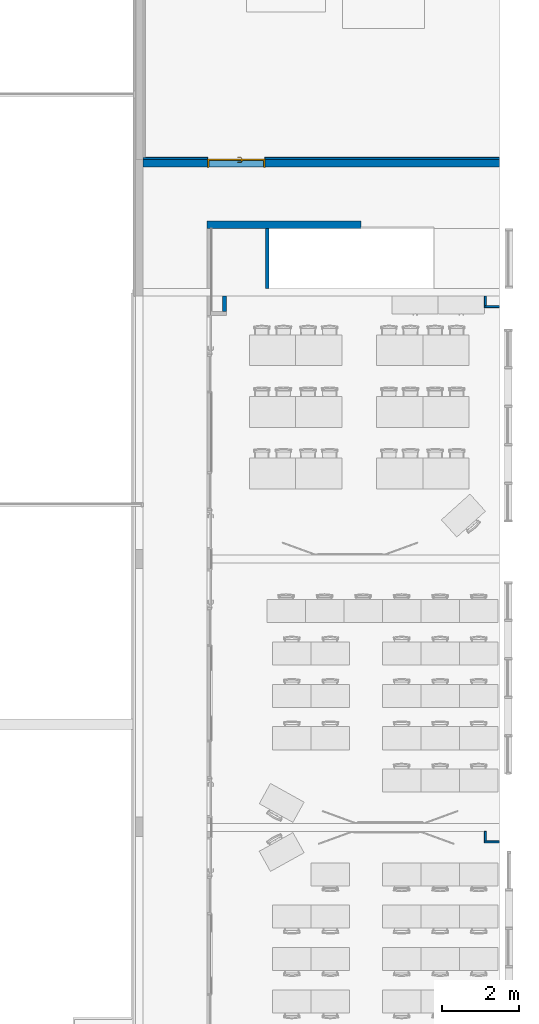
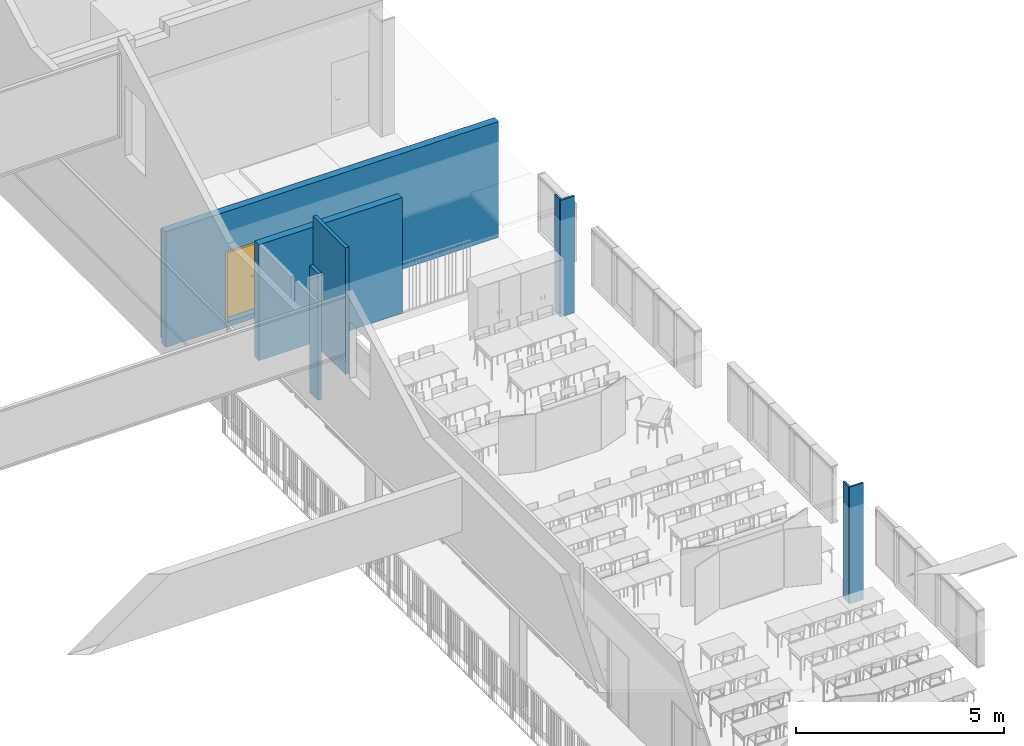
# One storey, part 25 of 44: 9 walls, 1 door, 2 openings.
"""IFC2X3 building model written with IfcOpenShell, lengths in centimetres."""

from ifc_helpers import new_model, entity, si_unit, converted_unit, derived_unit, direction, frame, frame_2d, origin, place, context, subcontext, project, spatial, rectangle, extrude, faceted_brep, source, transform, mapped, material, material_list, layer, layer_set, layer_usage, type_object, type_shapes, element, fill, save


model = new_model("IFC2X3")

# Units and contexts
model_context = context("Model", 3, precision=0.001, world=origin(), true_north=direction((6.12303176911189e-17, 1.0)))
body_context = subcontext(model_context, "Body", "Model", "MODEL_VIEW")
ifc_project = project(units=[si_unit("LENGTHUNIT", "METRE", prefix="CENTI"), si_unit("AREAUNIT", "SQUARE_METRE"), si_unit("VOLUMEUNIT", "CUBIC_METRE"), converted_unit("PLANEANGLEUNIT", "DEGREE", entity("IfcRatioMeasure", 0.0174532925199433), si_unit("PLANEANGLEUNIT", "RADIAN"), dimensions=[0, 0, 0, 0, 0, 0, 0]), si_unit("MASSUNIT", "GRAM", prefix="KILO"), si_unit("TIMEUNIT", "SECOND"), si_unit("FREQUENCYUNIT", "HERTZ"), si_unit("THERMODYNAMICTEMPERATUREUNIT", "DEGREE_CELSIUS"), derived_unit("THERMALTRANSMITTANCEUNIT", [(si_unit("MASSUNIT", "GRAM", prefix="KILO"), 1), (si_unit("THERMODYNAMICTEMPERATUREUNIT", "KELVIN"), -1), (si_unit("TIMEUNIT", "SECOND"), -3)]), derived_unit("VOLUMETRICFLOWRATEUNIT", [(si_unit("LENGTHUNIT", "METRE"), 3), (si_unit("TIMEUNIT", "SECOND"), -1)]), si_unit("ELECTRICCURRENTUNIT", "AMPERE"), si_unit("ELECTRICVOLTAGEUNIT", "VOLT"), si_unit("POWERUNIT", "WATT"), si_unit("FORCEUNIT", "NEWTON", prefix="KILO"), si_unit("ILLUMINANCEUNIT", "LUX"), si_unit("LUMINOUSFLUXUNIT", "LUMEN"), si_unit("LUMINOUSINTENSITYUNIT", "CANDELA"), derived_unit("USERDEFINED", [(si_unit("MASSUNIT", "GRAM", prefix="KILO"), -1), (si_unit("LENGTHUNIT", "METRE"), -2), (si_unit("TIMEUNIT", "SECOND"), 3), (si_unit("LUMINOUSFLUXUNIT", "LUMEN"), 1)]), derived_unit("LINEARVELOCITYUNIT", [(si_unit("LENGTHUNIT", "METRE"), 1), (si_unit("TIMEUNIT", "SECOND"), -1)]), si_unit("PRESSUREUNIT", "PASCAL"), derived_unit("USERDEFINED", [(si_unit("LENGTHUNIT", "METRE"), -2), (si_unit("MASSUNIT", "GRAM", prefix="KILO"), 1), (si_unit("TIMEUNIT", "SECOND"), -2)])], contexts=[model_context])

# Site, building, storey
site_placement = place(None, frame((8.62739174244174, -249.285249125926, 0.0)))
site = spatial("IfcSite", under=ifc_project, at=site_placement, Name="Default", CompositionType="ELEMENT")
building_placement = place(site_placement, origin())
building = spatial("IfcBuilding", under=site, at=building_placement, CompositionType="ELEMENT")
storey_placement = place(building_placement, frame((0.0, 0.0, 343.0)))
storey = spatial("IfcBuildingStorey", under=building, at=storey_placement, Name="R+1", CompositionType="ELEMENT", Elevation=343.0)

# Walls
ifc_material_1 = material(Name="Plâtre")
ifc_layer_1 = layer(ifc_material_1, 10.0)
ifc_layer_set_1 = layer_set([ifc_layer_1], Name="Mur de base:PLA 10")
ifc_layer_usage_1 = layer_usage(ifc_layer_set_1, "AXIS2", "NEGATIVE", 5.0)
wall_type_1 = type_object("IfcWallType", Name="Mur de base:PLA 10", PredefinedType="STANDARD", material=ifc_layer_set_1)
wall_1_placement = place(storey_placement, frame((3264.90480416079, 4642.98020813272, 0.0), z_axis=(0.0, 0.0, 1.0), x_axis=(0.0, 1.0, 0.0)))
element("IfcWallStandardCase", 1, at=wall_1_placement, inside=storey, type_object=wall_type_1, material=ifc_layer_usage_1, Name="Mur de base:PLA 10", ObjectType="Mur de base:PLA 10", context=body_context, shape_type="SweptSolid", body=[
    extrude(rectangle(XDim=39.9999999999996, YDim=10.0000000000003, at=frame_2d((19.9999999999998, 0.0), x_axis=(-1.0, 0.0))), origin(), (0.0, 0.0, 1.0), 372.0),
])
ifc_layer_2 = layer(ifc_material_1, 5.0)
ifc_layer_set_2 = layer_set([ifc_layer_2], Name="Mur de base:PLA 5")
ifc_layer_usage_2 = layer_usage(ifc_layer_set_2, "AXIS2", "NEGATIVE", 2.5)
wall_type_2 = type_object("IfcWallType", Name="Mur de base:PLA 5", PredefinedType="STANDARD", material=ifc_layer_set_2)
wall_2_placement = place(storey_placement, frame((3978.90482781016, 4655.48020813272, 0.0), z_axis=(0.0, 0.0, 1.0), x_axis=(-1.0, 0.0, 0.0)))
element("IfcWallStandardCase", 2, at=wall_2_placement, inside=storey, type_object=wall_type_2, material=ifc_layer_usage_2, Name="Mur de base:PLA 5", ObjectType="Mur de base:PLA 5", context=body_context, shape_type="SweptSolid", body=[
    extrude(rectangle(XDim=39.0000000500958, YDim=5.0000000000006, at=frame_2d((19.5000000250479, 0.0), x_axis=(-1.0, 0.0))), origin(), (0.0, 0.0, 1.0), 343.000000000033),
])
ifc_layer_usage_3 = layer_usage(ifc_layer_set_2, "AXIS2", "NEGATIVE", 2.5)
wall_3_placement = place(storey_placement, frame((3942.40482776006, 4657.98020813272, 0.0), z_axis=(0.0, 0.0, 1.0), x_axis=(0.0, 1.0, 0.0)))
element("IfcWallStandardCase", 3, at=wall_3_placement, inside=storey, type_object=wall_type_2, material=ifc_layer_usage_3, Name="Mur de base:PLA 5", ObjectType="Mur de base:PLA 5", context=body_context, shape_type="SweptSolid", body=[
    extrude(rectangle(XDim=25.0000000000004, YDim=5.0000000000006, at=frame_2d((12.5000000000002, 0.0), x_axis=(-1.0, 0.0))), origin(), (0.0, 0.0, 1.0), 343.000000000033),
])
ifc_layer_usage_4 = layer_usage(ifc_layer_set_2, "AXIS2", "NEGATIVE", 2.5)
wall_4_placement = place(storey_placement, frame((3978.90482781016, 3265.68519336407, 0.0), z_axis=(0.0, 0.0, 1.0), x_axis=(-1.0, 0.0, 0.0)))
element("IfcWallStandardCase", 4, at=wall_4_placement, inside=storey, type_object=wall_type_2, material=ifc_layer_usage_4, Name="Mur de base:PLA 5", ObjectType="Mur de base:PLA 5", context=body_context, shape_type="SweptSolid", body=[
    extrude(rectangle(XDim=39.000000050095, YDim=4.99999999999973, at=frame_2d((19.5000000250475, 0.0), x_axis=(-1.0, 0.0))), origin(), (0.0, 0.0, 1.0), 343.000000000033),
])
ifc_layer_usage_5 = layer_usage(ifc_layer_set_2, "AXIS2", "NEGATIVE", 2.5)
wall_5_placement = place(storey_placement, frame((3942.40482776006, 3268.18519336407, 0.0), z_axis=(0.0, 0.0, 1.0), x_axis=(0.0, 1.0, 0.0)))
element("IfcWallStandardCase", 5, at=wall_5_placement, inside=storey, type_object=wall_type_2, material=ifc_layer_usage_5, Name="Mur de base:PLA 5", ObjectType="Mur de base:PLA 5", context=body_context, shape_type="SweptSolid", body=[
    extrude(rectangle(XDim=24.9999999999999, YDim=5.0000000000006, at=frame_2d((12.5, 0.0), x_axis=(-1.0, 0.0))), origin(), (0.0, 0.0, 1.0), 343.000000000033),
])

# Wall, opening, door
ifc_material_2 = material(Name="Béton, coulé sur place, gris")
ifc_layer_3 = layer(ifc_material_2, 20.0)
ifc_layer_set_3 = layer_set([ifc_layer_3], Name="Mur de base:BET 20")
ifc_layer_usage_6 = layer_usage(ifc_layer_set_3, "AXIS2", "NEGATIVE", 10.0)
wall_type_3 = type_object("IfcWallType", Name="Mur de base:BET 20", PredefinedType="STANDARD", material=ifc_layer_set_3)
wall_6_placement = place(storey_placement, frame((3053.90482779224, 5027.98020814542, 0.0)))
wall_6 = element("IfcWallStandardCase", 6, at=wall_6_placement, inside=storey, type_object=wall_type_3, material=ifc_layer_usage_6, Name="Mur de base:BET 20", ObjectType="Mur de base:BET 20", context=body_context, shape_type="SweptSolid", body=[
    extrude(rectangle(XDim=925.00000001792, YDim=20.0000000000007, at=frame_2d((462.50000000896, 4.17443857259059e-14), x_axis=(-1.0, 0.0))), origin(), (0.0, 0.0, 1.0), 340.0),
])
opening_1_placement = place(wall_6_placement, frame((167.0, -10.0, 15.0)))
opening_1 = element("IfcOpeningElement", 7, at=opening_1_placement, cuts=wall_6, Name="Tierce(R)_bois_mu:143 x 204 cm:1", ObjectType="Opening", context=body_context, shape_type="SweptSolid", body=[
    extrude(rectangle(XDim=206.999999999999, YDim=149.0, at=frame_2d((103.499999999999, 74.4999999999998), x_axis=(1.0, 0.0))), frame((0.0, 0.0, 0.0), z_axis=(0.0, 1.0, 0.0), x_axis=(0.0, 0.0, 1.0)), (0.0, 0.0, 1.0), 20.0),
])
ifc_material_3 = material(Name="Aluminium-Dorma Metal-Anodized Silver")
ifc_material_4 = material(Name="Porte - Cadre")
ifc_material_5 = material(Name="Porte - Panneau")
ifc_material_list_1 = material_list([ifc_material_3, ifc_material_4, ifc_material_5])
ifc_material_list_2 = material_list([ifc_material_3, ifc_material_4, ifc_material_5])
door_style = type_object("IfcDoorStyle", Name="143 x 204 cm", ConstructionType="NOTDEFINED", OperationType="NOTDEFINED", ParameterTakesPrecedence=False, Sizeable=False, material=ifc_material_list_2)
shared_shape = source(origin(), body_context, "Body", "Brep", [
    faceted_brep([(60.2974701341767, 3.69999999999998, 100.778044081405), (59.8999999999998, 3.69999999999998, 100.699999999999), (59.8999999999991, 3.69999999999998, 99.2999999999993), (60.2974701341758, 3.69999999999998, 99.2219559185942), (60.7025298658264, 3.69999999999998, 99.2219559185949), (61.1000000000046, 3.69999999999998, 99.3000000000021), (61.100000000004, 3.69999999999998, 100.699999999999), (60.7025298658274, 3.69999999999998, 100.778044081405), (61.1000000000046, 5.94852045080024, 99.3000000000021), (61.1000000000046, 5.94852045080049, 100.699999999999), (60.7025298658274, 6.1131579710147, 100.778044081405), (62.0838906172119, 7.49451872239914, 100.778044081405), (61.916109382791, 7.89957845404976, 100.778044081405), (60.2974701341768, 6.2809392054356, 100.778044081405), (71.0684749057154, 6.84673156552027, 100.778044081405), (71.3548953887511, 7.13315204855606, 100.778044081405), (70.5884689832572, 7.89957845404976, 100.778044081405), (70.4206877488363, 7.49451872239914, 100.778044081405), (59.8999999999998, 6.44557672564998, 100.699999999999), (59.8999999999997, 6.44557672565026, 99.2999999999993), (60.2974701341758, 6.28093920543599, 99.2219559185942), (61.9161093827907, 7.8995784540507, 99.2219559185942), (62.0838906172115, 7.49451872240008, 99.2219559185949), (60.7025298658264, 6.11315797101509, 99.2219559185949), (71.3548953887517, 7.13315204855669, 99.2219559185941), (71.068474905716, 6.84673156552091, 99.2219559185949), (70.4206877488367, 7.49451872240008, 99.2219559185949), (70.5884689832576, 7.8995784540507, 99.2219559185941), (62.2485281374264, 7.09704858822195, 99.3000000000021), (62.2485281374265, 7.09704858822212, 100.699999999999), (61.7514718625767, 8.29704858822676, 100.699999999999), (61.7514718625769, 8.29704858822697, 99.2999999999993), (66.2522904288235, 7.09704858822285, 99.3000000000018), (70.2560502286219, 7.09704858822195, 99.3000000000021), (70.2560502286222, 7.09704858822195, 100.699999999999), (66.2522891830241, 7.09704858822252, 100.699999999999), (66.2522891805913, 7.71249275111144, 100.787811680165), (70.7531065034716, 8.29704858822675, 100.699999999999), (66.7600577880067, 8.29704858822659, 100.699999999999), (70.7531065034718, 8.29704858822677, 99.2999999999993), (65.7445206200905, 8.29704858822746, 99.2999999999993), (66.2522892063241, 7.71249274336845, 99.2121883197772), (70.7874210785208, 6.56567773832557, 99.3000000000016), (71.6359492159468, 7.41420587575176, 99.2999999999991), (71.6359492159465, 7.4142058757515, 100.699999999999), (70.7874210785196, 6.5656777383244, 100.699999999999)], [[[0, 1, 2, 3, 4, 5, 6, 7]], [[6, 5, 8, 9]], [[9, 10, 7, 6]], [[10, 11, 12, 13, 0, 7]], [[14, 15, 16, 17]], [[13, 18, 1, 0]], [[2, 1, 18, 19]], [[19, 20, 3, 2]], [[20, 21, 22, 23, 4, 3]], [[24, 25, 26, 27]], [[23, 8, 5, 4]], [[9, 8, 28, 29]], [[29, 11, 10, 9]], [[12, 30, 18, 13]], [[19, 18, 30, 31]], [[31, 21, 20, 19]], [[22, 28, 8, 23]], [[29, 28, 32, 33, 34, 35]], [[11, 35, 36]], [[16, 37, 38]], [[30, 12, 38]], [[38, 12, 36]], [[36, 35, 17]], [[17, 16, 36]], [[35, 11, 29]], [[34, 17, 35]], [[11, 36, 12]], [[38, 36, 16]], [[31, 30, 38, 37, 39, 40]], [[40, 41, 21]], [[41, 40, 27]], [[21, 31, 40]], [[39, 27, 40]], [[41, 32, 22]], [[22, 21, 41]], [[26, 32, 41]], [[28, 22, 32]], [[32, 26, 33]], [[26, 41, 27]], [[42, 25, 24, 43, 44, 15, 14, 45]], [[34, 33, 42, 45]], [[45, 14, 17, 34]], [[15, 44, 37, 16]], [[39, 37, 44, 43]], [[43, 24, 27, 39]], [[25, 42, 33, 26]]]),
    faceted_brep([(60.2974701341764, -1.30000000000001, 100.778044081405), (60.702529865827, -1.30000000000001, 100.778044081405), (61.1000000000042, -1.30000000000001, 100.699999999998), (61.1000000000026, -1.30000000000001, 99.3000000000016), (60.7025298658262, -1.30000000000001, 99.2219559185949), (60.2974701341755, -1.30000000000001, 99.2219559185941), (59.8999999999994, -1.30000000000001, 99.2999999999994), (59.8999999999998, -1.30000000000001, 100.699999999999), (59.8999999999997, -4.06509507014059, 100.699999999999), (60.2974701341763, -3.90045754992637, 100.778044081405), (61.9023585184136, -5.50534593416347, 100.778044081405), (62.0701397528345, -5.10028620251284, 100.778044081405), (60.702529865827, -3.73267631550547, 100.778044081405), (71.3521810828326, -4.73891952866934, 100.778044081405), (71.0657605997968, -4.4524990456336, 100.778044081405), (70.4179734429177, -5.10028620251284, 100.778044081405), (70.5857546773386, -5.50534593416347, 100.778044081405), (61.1000000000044, -3.56803879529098, 100.699999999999), (61.1000000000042, -3.56803879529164, 99.3000000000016), (60.7025298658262, -3.7326763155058, 99.2219559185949), (62.0701397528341, -5.10028620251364, 99.2219559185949), (61.9023585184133, -5.50534593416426, 99.2219559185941), (60.2974701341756, -3.9004575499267, 99.2219559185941), (71.0657605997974, -4.45249904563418, 99.2219559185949), (71.3521810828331, -4.73891952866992, 99.2219559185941), (70.5857546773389, -5.50534593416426, 99.2219559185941), (70.417973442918, -5.10028620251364, 99.2219559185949), (59.8999999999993, -4.06509507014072, 99.2999999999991), (61.7377209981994, -5.90281606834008, 100.699999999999), (62.234777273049, -4.70281606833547, 100.699999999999), (62.2347772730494, -4.70281606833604, 99.3000000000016), (61.7377209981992, -5.90281606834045, 99.2999999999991), (65.730769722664, -5.90281606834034, 100.699999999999), (66.2440566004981, -5.31828027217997, 100.787811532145), (70.7503921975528, -5.90281606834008, 100.699999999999), (66.2440565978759, -4.70281606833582, 100.699999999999), (70.2533359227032, -4.70281606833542, 100.699999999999), (70.2533359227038, -4.70281606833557, 99.3000000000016), (66.2440563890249, -4.70281606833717, 99.3000000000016), (66.2440565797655, -5.31828027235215, 99.2121884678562), (70.7503921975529, -5.90281606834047, 99.2999999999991), (66.7573433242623, -5.90281606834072, 99.2999999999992), (70.7847067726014, -4.1714452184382, 100.699999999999), (71.6332349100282, -5.01997335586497, 100.699999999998), (71.6332349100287, -5.01997335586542, 99.2999999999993), (70.7847067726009, -4.17144521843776, 99.3000000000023)], [[[0, 1, 2, 3, 4, 5, 6, 7]], [[8, 9, 0, 7]], [[9, 10, 11, 12, 1, 0]], [[13, 14, 15, 16]], [[12, 17, 2, 1]], [[3, 2, 17, 18]], [[18, 19, 4, 3]], [[19, 20, 21, 22, 5, 4]], [[23, 24, 25, 26]], [[22, 27, 6, 5]], [[7, 6, 27, 8]], [[28, 10, 9, 8]], [[11, 29, 17, 12]], [[18, 17, 29, 30]], [[30, 20, 19, 18]], [[21, 31, 27, 22]], [[8, 27, 31, 28]], [[32, 33, 10]], [[33, 32, 16]], [[10, 28, 32]], [[34, 16, 32]], [[33, 35, 11]], [[11, 10, 33]], [[15, 35, 33]], [[29, 11, 35]], [[35, 15, 36]], [[15, 33, 16]], [[30, 29, 35, 36, 37, 38]], [[20, 38, 39]], [[25, 40, 41]], [[31, 21, 41]], [[41, 21, 39]], [[39, 38, 26]], [[26, 25, 39]], [[38, 20, 30]], [[37, 26, 38]], [[20, 39, 21]], [[41, 39, 25]], [[28, 31, 41, 40, 34, 32]], [[42, 14, 13, 43, 44, 24, 23, 45]], [[43, 13, 16, 34]], [[14, 42, 36, 15]], [[37, 36, 42, 45]], [[45, 23, 26, 37]], [[24, 44, 40, 25]], [[34, 40, 44, 43]]]),
    faceted_brep([(61.5352761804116, 3.19999999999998, 86.6003983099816), (62.5000000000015, 3.19999999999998, 87.0), (62.5000000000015, 3.19999999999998, 108.0), (61.5352761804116, 3.19999999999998, 108.399601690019), (60.5000000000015, 3.19999999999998, 108.535898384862), (59.4647238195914, 3.19999999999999, 108.399601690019), (58.5000000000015, 3.19999999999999, 108.0), (58.5000000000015, 3.19999999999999, 87.0), (59.4647238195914, 3.19999999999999, 86.6003983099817), (60.5000000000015, 3.19999999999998, 86.4641016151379), (61.5352761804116, 3.69999999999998, 108.399601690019), (62.5000000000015, 3.69999999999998, 108.0), (62.5000000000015, 3.69999999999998, 87.0), (61.5352761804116, 3.69999999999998, 86.6003983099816), (60.5000000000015, 3.69999999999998, 86.4641016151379), (59.4647238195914, 3.69999999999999, 86.6003983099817), (58.5000000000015, 3.69999999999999, 87.0), (58.5000000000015, 3.69999999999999, 108.0), (59.4647238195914, 3.69999999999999, 108.399601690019), (60.5000000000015, 3.69999999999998, 108.535898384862)], [[[0, 1, 2, 3, 4, 5, 6, 7, 8, 9]], [[10, 11, 12, 13, 14, 15, 16, 17, 18, 19]], [[11, 10, 3, 2]], [[3, 10, 19, 4]], [[19, 18, 5, 4]], [[18, 17, 6, 5]], [[7, 6, 17, 16]], [[16, 15, 8, 7]], [[8, 15, 14, 9]], [[14, 13, 0, 9]], [[13, 12, 1, 0]], [[2, 1, 12, 11]]]),
    faceted_brep([(61.5352761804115, -1.30000000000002, 86.6003983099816), (62.5000000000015, -1.30000000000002, 87.0), (62.5000000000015, -1.30000000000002, 108.0), (61.5352761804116, -1.30000000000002, 108.399601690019), (60.5000000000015, -1.30000000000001, 108.535898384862), (59.4647238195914, -1.30000000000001, 108.399601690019), (58.5000000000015, -1.30000000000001, 108.0), (58.5000000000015, -1.30000000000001, 87.0), (59.4647238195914, -1.30000000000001, 86.6003983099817), (60.5000000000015, -1.30000000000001, 86.4641016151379), (61.5352761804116, -0.800000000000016, 108.399601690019), (62.5000000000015, -0.800000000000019, 108.0), (62.5000000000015, -0.800000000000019, 87.0), (61.5352761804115, -0.800000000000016, 86.6003983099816), (60.5000000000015, -0.800000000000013, 86.4641016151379), (59.4647238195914, -0.800000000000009, 86.6003983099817), (58.5000000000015, -0.800000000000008, 87.0), (58.5000000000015, -0.800000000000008, 108.0), (59.4647238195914, -0.800000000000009, 108.399601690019), (60.5000000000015, -0.800000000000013, 108.535898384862)], [[[0, 1, 2, 3, 4, 5, 6, 7, 8, 9]], [[10, 11, 12, 13, 14, 15, 16, 17, 18, 19]], [[16, 15, 8, 7]], [[8, 15, 14, 9]], [[14, 13, 0, 9]], [[13, 12, 1, 0]], [[2, 1, 12, 11]], [[11, 10, 3, 2]], [[3, 10, 19, 4]], [[19, 18, 5, 4]], [[18, 17, 6, 5]], [[7, 6, 17, 16]]]),
    faceted_brep([(149.0, 0.0, 0.0), (150.0, 0.0, 0.0), (150.0, -0.799999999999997, 0.0), (146.0, -0.799999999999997, 0.0), (146.0, 3.2, 0.0), (145.0, 3.2, 0.0), (145.0, 20.8000000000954, 0.0), (150.0, 20.8000000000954, 0.0), (150.0, 20.0, 0.0), (149.0, 20.0, 0.0), (149.0, 20.0, 207.0), (149.0, 0.0, 207.0), (150.0, 20.0, 208.0), (-1.0, 20.0, 208.0), (-1.0, 20.0, 0.0), (0.0, 20.0, 0.0), (0.0, 20.0, 207.0), (150.0, 20.8000000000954, 208.0), (145.0, 20.8000000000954, 203.0), (4.0, 20.8000000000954, 203.0), (4.0, 20.8000000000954, 0.0), (-1.0, 20.8000000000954, 0.0), (-1.0, 20.8000000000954, 208.0), (145.0, 3.2, 203.0), (146.0, 3.2, 204.0), (3.0, 3.2, 204.0), (3.0, 3.2, 0.0), (4.0, 3.2, 0.0), (4.0, 3.2, 203.0), (146.0, -0.799999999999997, 204.0), (150.0, -0.799999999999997, 208.0), (-1.0, -0.799999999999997, 208.0), (-1.0, -0.799999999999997, 0.0), (3.0, -0.799999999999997, 0.0), (3.0, -0.799999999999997, 204.0), (150.0, 0.0, 208.0), (0.0, 0.0, 207.0), (0.0, 0.0, 0.0), (-1.0, 0.0, 0.0), (-1.0, 0.0, 208.0)], [[[0, 1, 2, 3, 4, 5, 6, 7, 8, 9]], [[9, 10, 11, 0]], [[8, 12, 13, 14, 15, 16, 10, 9]], [[7, 17, 12, 8]], [[6, 18, 19, 20, 21, 22, 17, 7]], [[5, 23, 18, 6]], [[4, 24, 25, 26, 27, 28, 23, 5]], [[3, 29, 24, 4]], [[2, 30, 31, 32, 33, 34, 29, 3]], [[1, 35, 30, 2]], [[0, 11, 36, 37, 38, 39, 35, 1]], [[16, 15, 37, 36]], [[37, 15, 14, 21, 20, 27, 26, 33, 32, 38]], [[22, 21, 14, 13]], [[28, 27, 20, 19]], [[34, 33, 26, 25]], [[39, 38, 32, 31]], [[10, 16, 36, 11]], [[17, 22, 13, 12]], [[23, 28, 19, 18]], [[29, 34, 25, 24]], [[35, 39, 31, 30]]]),
    faceted_brep([(3.0, -0.799999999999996, 204.0), (3.0, -0.799999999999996, 0.0), (55.0, -0.799999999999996, 0.0), (55.0, -0.799999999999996, 204.0), (3.0, 3.2, 204.0), (55.0, 3.2, 204.0), (55.0, 3.2, 0.0), (3.0, 3.2, 0.0)], [[[0, 1, 2, 3]], [[4, 5, 6, 7]], [[3, 5, 4, 0]], [[2, 6, 5, 3]], [[1, 7, 6, 2]], [[0, 4, 7, 1]]]),
    faceted_brep([(146.0, -0.799999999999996, 0.0), (146.0, -0.799999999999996, 204.0), (55.0, -0.799999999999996, 204.0), (55.0, -0.799999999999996, 0.0), (146.0, 3.2, 0.0), (55.0, 3.2, 0.0), (55.0, 3.2, 204.0), (146.0, 3.2, 204.0)], [[[0, 1, 2, 3]], [[4, 5, 6, 7]], [[3, 5, 4, 0]], [[2, 6, 5, 3]], [[1, 7, 6, 2]], [[0, 4, 7, 1]]]),
])
type_shapes(door_style, [shared_shape])
door_placement = place(opening_1_placement, frame((149.0, 20.0, 0.0), z_axis=(0.0, 0.0, 1.0), x_axis=(-1.0, 0.0, 0.0)))
door = element("IfcDoor", 8, at=door_placement, inside=storey, type_object=door_style, material=ifc_material_list_1, Name="Tierce(R)_bois_mu:143 x 204 cm", ObjectType="143 x 204 cm", OverallHeight=206.999999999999, OverallWidth=149.0, context=body_context, shape_type="MappedRepresentation", body=[
    mapped(shared_shape, transform((0.0, 0.0, 0.0), scale=1.0)),
])
fill(opening_1, door)

# Walls
ifc_layer_usage_7 = layer_usage(ifc_layer_set_3, "AXIS2", "NEGATIVE", 10.0)
wall_7_placement = place(storey_placement, frame((3219.90482780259, 4867.98020813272, 0.0)))
element("IfcWallStandardCase", 9, at=wall_7_placement, inside=storey, type_object=wall_type_3, material=ifc_layer_usage_7, Name="Mur de base:BET 20", ObjectType="Mur de base:BET 20", context=body_context, shape_type="SweptSolid", body=[
    extrude(rectangle(XDim=398.999999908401, YDim=20.0000000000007, at=frame_2d((199.4999999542, 1.46549439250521e-13), x_axis=(-1.0, 0.0))), origin(), (0.0, 0.0, 1.0), 340.0),
])
ifc_material_6 = material(Name="Stuc")
ifc_layer_4 = layer(ifc_material_6, 10.0)
ifc_layer_set_4 = layer_set([ifc_layer_4], Name="Mur de base:CIM 10")
ifc_layer_usage_8 = layer_usage(ifc_layer_set_4, "AXIS2", "NEGATIVE", 5.0)
wall_type_4 = type_object("IfcWallType", Name="Mur de base:CIM 10", PredefinedType="STANDARD", material=ifc_layer_set_4)
wall_8_placement = place(storey_placement, frame((3375.90480416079, 4857.98020813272, 0.0), z_axis=(0.0, 0.0, 1.0), x_axis=(0.0, -1.0, 0.0)))
element("IfcWallStandardCase", 10, at=wall_8_placement, inside=storey, type_object=wall_type_4, material=ifc_layer_usage_8, Name="Mur de base:CIM 10", ObjectType="Mur de base:CIM 10", context=body_context, shape_type="SweptSolid", body=[
    extrude(rectangle(XDim=155.0, YDim=10.0000000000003, at=frame_2d((77.5000000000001, 2.35367281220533e-14), x_axis=(-1.0, 0.0))), origin(), (0.0, 0.0, 1.0), 372.0),
])

# Wall, opening
ifc_material_7 = material(Name="Laine minérale")
ifc_layer_5 = layer(ifc_material_7, 3.0)
ifc_material_8 = material(Name="Panneau de grandes particules orientées")
ifc_layer_6 = layer(ifc_material_8, 2.0)
ifc_layer_set_5 = layer_set([ifc_layer_5, ifc_layer_6], Name="Mur de base:ACOUST 5")
ifc_layer_usage_9 = layer_usage(ifc_layer_set_5, "AXIS2", "NEGATIVE", 2.5)
wall_type_5 = type_object("IfcWallType", Name="Mur de base:ACOUST 5", PredefinedType="STANDARD", material=ifc_layer_set_5)
wall_9_placement = place(storey_placement, frame((3978.90482781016, 5040.48020814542, 15.0), z_axis=(0.0, 0.0, 1.0), x_axis=(-1.0, 0.0, 0.0)))
wall_9 = element("IfcWallStandardCase", 11, at=wall_9_placement, inside=storey, type_object=wall_type_5, material=ifc_layer_usage_9, Name="Mur de base:ACOUST 5", ObjectType="Mur de base:ACOUST 5", context=body_context, shape_type="SweptSolid", body=[
    extrude(rectangle(XDim=925.000000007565, YDim=5.0000000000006, at=frame_2d((462.500000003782, 0.0), x_axis=(-1.0, 0.0))), origin(), (0.0, 0.0, 1.0), 320.0),
])
opening_2_placement = place(wall_9_placement, origin())
element("IfcOpeningElement", 12, at=opening_2_placement, cuts=wall_9, Name="Mur de base:ACOUST 5", ObjectType="Opening", context=body_context, shape_type="SweptSolid", body=[
    extrude(rectangle(XDim=206.999999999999, YDim=148.999999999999, at=frame_2d((-2.1316282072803e-14, 2.20268248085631e-13), x_axis=(1.0, 0.0))), frame((683.500000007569, -149.900000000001, 103.499999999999), z_axis=(0.0, 1.0, 0.0), x_axis=(0.0, 0.0, 1.0)), (0.0, 0.0, 1.0), 304.8),
])

save(model, "model.ifc")
